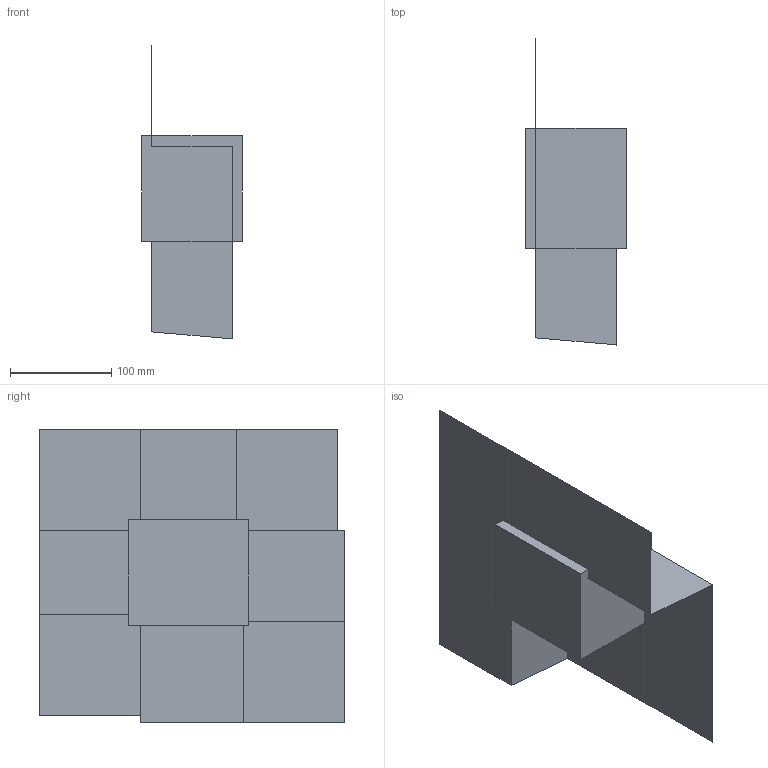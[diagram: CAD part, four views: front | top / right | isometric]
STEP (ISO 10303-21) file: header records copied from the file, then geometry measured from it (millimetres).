
FILE_DESCRIPTION(('CATIA V5 STEP Exchange'),'2;1');
FILE_NAME('C:\_Andres\UNIVERSIDAD\IQS\ASIGNATURAS\DAO\EXF\EXF-15161c\1original\Formosa_Marín_Ej02-moldes_v9.stp','2016-03-04T15:45:35+00:00',('none'),('none'),'CATIA Version 5 Release 20 SP 1 (IN-10)','CATIA V5 STEP AP203','none');
FILE_SCHEMA(('CONFIG_CONTROL_DESIGN'));
Length unit declared in the file: millimetre
Products named in the file (1): Formosa_Marín_Ej02-moldes_v9
Bounding box: 99 x 302.13 x 290.13 mm (x, y, z)
Volume: 2603030.9 mm3; surface area: 323478.9 mm2
Topology: 3 solids, 7 shells, 45 faces, 118 edges, 83 vertices
Faces by surface type: plane 41, cylinder 4
Entity records: 1101 total; most frequent: ORIENTED_EDGE 198, CARTESIAN_POINT 179, DIRECTION 147, EDGE_CURVE 83, VECTOR 73, LINE 73, VERTEX_POINT 56, EDGE_LOOP 49
